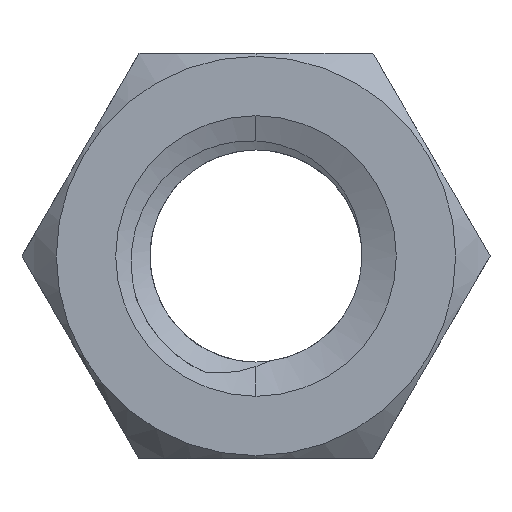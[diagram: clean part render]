
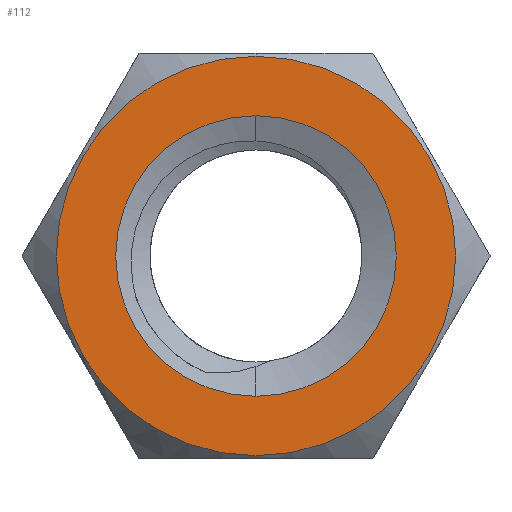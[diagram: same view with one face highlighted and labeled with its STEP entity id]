
A CAD part, front view. The second image highlights one B-rep face of the part: STEP entity #112.
In plain terms, the highlighted planar face has unit normal (0, -1, 0).
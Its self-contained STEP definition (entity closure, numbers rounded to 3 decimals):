
#54 = EDGE_CURVE ( 'NONE', #1155, #1424, #1309, .T. ) ;
#91 = AXIS2_PLACEMENT_3D ( 'NONE', #2224, #253, #988 ) ;
#112 = ADVANCED_FACE ( 'NONE', ( #348, #884 ), #1913, .F. ) ;
#117 = DIRECTION ( 'NONE',  ( 0., -1., 0. ) ) ;
#253 = DIRECTION ( 'NONE',  ( 0., -1., 0. ) ) ;
#303 = DIRECTION ( 'NONE',  ( 0., 0., -1. ) ) ;
#309 = ORIENTED_EDGE ( 'NONE', *, *, #54, .F. ) ;
#348 = FACE_BOUND ( 'NONE', #1061, .T. ) ;
#349 = AXIS2_PLACEMENT_3D ( 'NONE', #1000, #117, #303 ) ;
#361 = CARTESIAN_POINT ( 'NONE',  ( 0., -1.9, 0. ) ) ;
#373 = CARTESIAN_POINT ( 'NONE',  ( 0., -1.9, 0. ) ) ;
#400 = ORIENTED_EDGE ( 'NONE', *, *, #1253, .F. ) ;
#417 = AXIS2_PLACEMENT_3D ( 'NONE', #373, #704, #1211 ) ;
#462 = CARTESIAN_POINT ( 'NONE',  ( 0., -1.9, 4.5 ) ) ;
#469 = CARTESIAN_POINT ( 'NONE',  ( 0., -1.9, 0. ) ) ;
#586 = ORIENTED_EDGE ( 'NONE', *, *, #993, .T. ) ;
#628 = VERTEX_POINT ( 'NONE', #2286 ) ;
#704 = DIRECTION ( 'NONE',  ( 0., 1., 0. ) ) ;
#798 = AXIS2_PLACEMENT_3D ( 'NONE', #469, #1390, #1903 ) ;
#884 = FACE_OUTER_BOUND ( 'NONE', #1550, .T. ) ;
#897 = AXIS2_PLACEMENT_3D ( 'NONE', #361, #2106, #1066 ) ;
#988 = DIRECTION ( 'NONE',  ( 0., 0., -1. ) ) ;
#993 = EDGE_CURVE ( 'NONE', #1819, #628, #1787, .T. ) ;
#1000 = CARTESIAN_POINT ( 'NONE',  ( 0., -1.9, 0. ) ) ;
#1022 = EDGE_CURVE ( 'NONE', #628, #1819, #1316, .T. ) ;
#1061 = EDGE_LOOP ( 'NONE', ( #309, #400 ) ) ;
#1066 = DIRECTION ( 'NONE',  ( 0., 0., -1. ) ) ;
#1155 = VERTEX_POINT ( 'NONE', #462 ) ;
#1211 = DIRECTION ( 'NONE',  ( 0., 0., 1. ) ) ;
#1253 = EDGE_CURVE ( 'NONE', #1424, #1155, #1467, .T. ) ;
#1309 = CIRCLE ( 'NONE', #897, 4.5 ) ;
#1316 = CIRCLE ( 'NONE', #349, 6.406 ) ;
#1390 = DIRECTION ( 'NONE',  ( 0., -1., 0. ) ) ;
#1424 = VERTEX_POINT ( 'NONE', #1957 ) ;
#1467 = CIRCLE ( 'NONE', #91, 4.5 ) ;
#1550 = EDGE_LOOP ( 'NONE', ( #2151, #586 ) ) ;
#1769 = CARTESIAN_POINT ( 'NONE',  ( 0., -1.9, -6.406 ) ) ;
#1787 = CIRCLE ( 'NONE', #798, 6.406 ) ;
#1819 = VERTEX_POINT ( 'NONE', #1769 ) ;
#1903 = DIRECTION ( 'NONE',  ( 0., 0., -1. ) ) ;
#1913 = PLANE ( 'NONE',  #417 ) ;
#1957 = CARTESIAN_POINT ( 'NONE',  ( 0., -1.9, -4.5 ) ) ;
#2106 = DIRECTION ( 'NONE',  ( 0., -1., 0. ) ) ;
#2151 = ORIENTED_EDGE ( 'NONE', *, *, #1022, .T. ) ;
#2224 = CARTESIAN_POINT ( 'NONE',  ( 0., -1.9, 0. ) ) ;
#2286 = CARTESIAN_POINT ( 'NONE',  ( 0., -1.9, 6.406 ) ) ;
